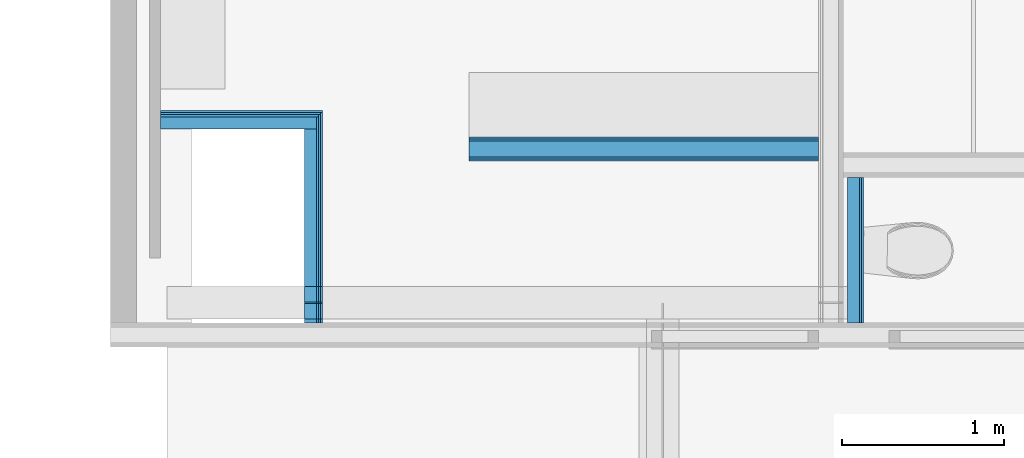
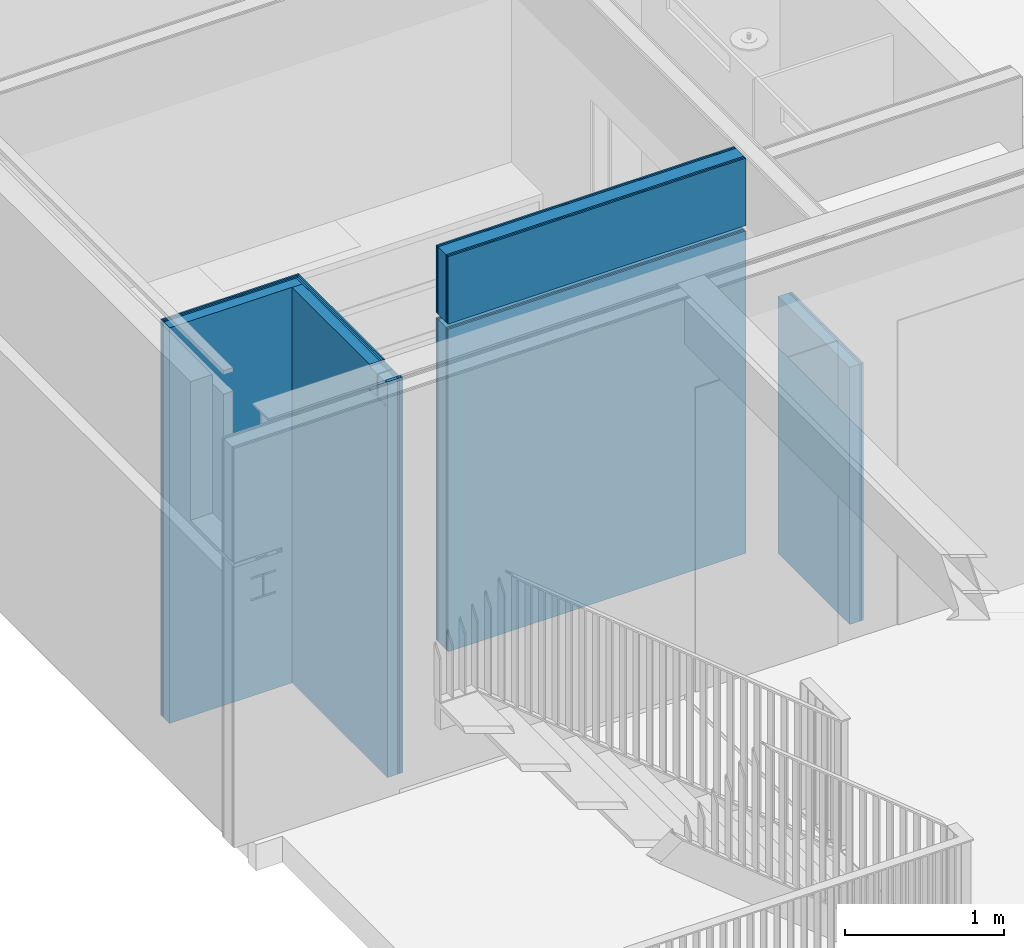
# One storey, part 11 of 35: 16 building element parts, 4 elements without a shape of their own.
"""IFC2X3 building model written with IfcOpenShell, lengths in millimetres."""

from ifc_helpers import new_model, entity, si_unit, converted_unit, derived_unit, money_unit, direction, frame, origin_with_axes, place, context, subcontext, project, spatial, faceted_brep, material, type_object, element, aggregate, save


model = new_model("IFC2X3")

# Units and contexts
model_context = context("Model", 3, precision=0.01, world=origin_with_axes(), true_north=direction((0.0, 1.0)))
body_context = subcontext(model_context, "Body", "Model", "MODEL_VIEW")
ifc_project = project(units=[si_unit("LENGTHUNIT", "METRE", prefix="MILLI"), si_unit("AREAUNIT", "SQUARE_METRE"), si_unit("VOLUMEUNIT", "CUBIC_METRE"), converted_unit("PLANEANGLEUNIT", "DEGREE", entity("IfcPlaneAngleMeasure", 0.0174532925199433), si_unit("PLANEANGLEUNIT", "RADIAN"), dimensions=[0, 0, 0, 0, 0, 0, 0]), money_unit("EUR"), converted_unit("TIMEUNIT", "Year", entity("IfcTimeMeasure", 31557600.0), si_unit("TIMEUNIT", "SECOND"), dimensions=[0, 0, 1, 0, 0, 0, 0]), si_unit("MASSUNIT", "GRAM", prefix="KILO"), si_unit("THERMODYNAMICTEMPERATUREUNIT", "DEGREE_CELSIUS"), si_unit("LUMINOUSINTENSITYUNIT", "LUMEN"), si_unit("ENERGYUNIT", "JOULE", prefix="MEGA"), derived_unit("THERMALCONDUCTANCEUNIT", [(si_unit("POWERUNIT", "WATT"), 1), (si_unit("LENGTHUNIT", "METRE"), -1), (si_unit("THERMODYNAMICTEMPERATUREUNIT", "KELVIN"), -1)]), derived_unit("SPECIFICHEATCAPACITYUNIT", [(si_unit("ENERGYUNIT", "JOULE"), 1), (si_unit("MASSUNIT", "GRAM", prefix="KILO"), -1), (si_unit("THERMODYNAMICTEMPERATUREUNIT", "KELVIN"), -1)]), derived_unit("MASSDENSITYUNIT", [(si_unit("MASSUNIT", "GRAM", prefix="KILO"), 1), (si_unit("VOLUMEUNIT", "CUBIC_METRE"), -1)])], contexts=[model_context])

# Site, building, storey
site_placement = place(None, origin_with_axes())
site = spatial("IfcSite", under=ifc_project, at=site_placement, Name="<site naam>", CompositionType="ELEMENT")
building_placement = place(site_placement, origin_with_axes())
building = spatial("IfcBuilding", under=site, at=building_placement, Name="<Naam gebouw>", CompositionType="ELEMENT")
storey_placement = place(building_placement, frame((0.0, 0.0, 6345.0), z_axis=(0.0, 0.0, 1.0), x_axis=(1.0, 0.0, 0.0)))
storey = spatial("IfcBuildingStorey", under=building, at=storey_placement, Name="02 2e tussenverdieping", CompositionType="ELEMENT", Elevation=6345.0)

# Wall, building element parts
wall_type_1 = type_object("IfcWallType", Name="MS-01 GF 150 ECO DGS/2.100.2.A 150", PredefinedType="NOTDEFINED")
wall_1_placement = place(storey_placement, frame((54042.53570277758, 12875.00002235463, 0.0), z_axis=(0.0, 0.0, 1.0), x_axis=(1.0, 0.0, 0.0)))
wall_1 = element("IfcWall", 1, at=wall_1_placement, inside=storey, type_object=wall_type_1, Name="22_Binnenwand_MS-01")
ifc_material_1 = material(Name="gipsplaat")
building_element_part_1_placement = place(wall_1_placement, origin_with_axes())
building_element_part_1 = element("IfcBuildingElementPart", 2, at=building_element_part_1_placement, material=ifc_material_1, Name="gipsplaat", context=body_context, shape_type="Brep", body=[
    faceted_brep([(2162.500004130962, 137.4999999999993, 3.000000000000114), (2162.500004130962, 150.0000000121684, 3.000000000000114), (2162.499968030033, 150.0000100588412, 2480.000000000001), (2162.500000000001, 137.5000000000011, 2480.000000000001), (0.0, 150.0000000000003, 3.000000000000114), (0.0, 137.4999999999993, 3.000000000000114), (0.0, 150.0000000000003, 2480.000000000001), (0.0, 137.5000000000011, 2480.000000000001)], [[[0, 1, 2, 3]], [[4, 1, 0, 5]], [[1, 4, 6, 2]], [[3, 2, 6, 7]], [[5, 0, 3, 7]], [[4, 5, 7, 6]]]),
    faceted_brep([(2162.500000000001, 137.5000000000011, 2520.0), (2162.499968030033, 150.0000100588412, 2520.0), (2162.500000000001, 150.0000000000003, 3038.000000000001), (2162.500000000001, 137.5000000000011, 3038.000000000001), (0.0, 150.0000000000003, 2520.0), (0.0, 137.5000000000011, 2520.0), (0.0, 150.0000000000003, 3038.000000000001), (0.0, 137.5000000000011, 3038.000000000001)], [[[0, 1, 2, 3]], [[4, 1, 0, 5]], [[1, 4, 6, 2]], [[3, 2, 6, 7]], [[5, 0, 3, 7]], [[4, 5, 7, 6]]]),
])
ifc_material_2 = material(Name="isolatie_steenwol LSW")
building_element_part_2_placement = place(wall_1_placement, origin_with_axes())
building_element_part_2 = element("IfcBuildingElementPart", 3, at=building_element_part_2_placement, material=ifc_material_2, Name="isolatie_steenwol LSW", context=body_context, shape_type="Brep", body=[
    faceted_brep([(2162.500004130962, 25.00000000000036, 3.000000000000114), (2162.500004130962, 125.0, 3.000000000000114), (2162.500000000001, 125.0, 2480.000000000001), (2162.499968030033, 50.95634978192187, 2480.000000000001), (2162.499968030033, 25.00000000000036, 2480.000000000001), (0.0, 125.0, 3.000000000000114), (0.0, 25.00000000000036, 3.000000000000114), (0.0, 125.0, 2480.000000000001), (0.0, 25.00000000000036, 2480.000000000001)], [[[0, 1, 2, 3, 4]], [[5, 1, 0, 6]], [[1, 5, 7, 2]], [[3, 2, 7, 8, 4]], [[6, 0, 4, 8]], [[5, 6, 8, 7]]]),
    faceted_brep([(2162.499968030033, 25.00000000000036, 2520.0), (2162.499968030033, 50.95634978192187, 2520.0), (2162.500000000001, 125.0, 2520.0), (2162.500000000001, 125.0, 3038.000000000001), (2162.500000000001, 25.00000000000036, 3038.000000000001), (0.0, 125.0, 2520.0), (0.0, 25.00000000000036, 2520.0), (0.0, 125.0, 3038.000000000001), (0.0, 25.00000000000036, 3038.000000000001)], [[[0, 1, 2, 3, 4]], [[5, 2, 1, 0, 6]], [[2, 5, 7, 3]], [[4, 3, 7, 8]], [[6, 0, 4, 8]], [[5, 6, 8, 7]]]),
])
building_element_part_3_placement = place(wall_1_placement, origin_with_axes())
building_element_part_3 = element("IfcBuildingElementPart", 4, at=building_element_part_3_placement, material=ifc_material_1, Name="gipsplaat", context=body_context, shape_type="Brep", body=[
    faceted_brep([(2162.500004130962, 12.49999999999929, 3.000000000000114), (2162.500004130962, 25.00000000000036, 3.000000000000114), (2162.499968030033, 25.00000000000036, 2480.000000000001), (2162.499968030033, 12.50000000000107, 2480.000000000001), (0.0, 25.00000000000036, 3.000000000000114), (0.0, 12.49999999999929, 3.000000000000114), (0.0, 25.00000000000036, 2480.000000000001), (0.0, 12.50000000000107, 2480.000000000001)], [[[0, 1, 2, 3]], [[4, 1, 0, 5]], [[1, 4, 6, 2]], [[3, 2, 6, 7]], [[5, 0, 3, 7]], [[4, 5, 7, 6]]]),
    faceted_brep([(2162.499968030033, 12.50000000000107, 2520.0), (2162.499968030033, 25.00000000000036, 2520.0), (2162.500000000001, 25.00000000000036, 3038.000000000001), (2162.500000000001, 12.50000000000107, 3038.000000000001), (0.0, 25.00000000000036, 2520.0), (0.0, 12.50000000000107, 2520.0), (0.0, 25.00000000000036, 3038.000000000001), (0.0, 12.50000000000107, 3038.000000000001)], [[[0, 1, 2, 3]], [[4, 1, 0, 5]], [[1, 4, 6, 2]], [[3, 2, 6, 7]], [[5, 0, 3, 7]], [[4, 5, 7, 6]]]),
])
building_element_part_4_placement = place(wall_1_placement, origin_with_axes())
building_element_part_4 = element("IfcBuildingElementPart", 5, at=building_element_part_4_placement, material=ifc_material_1, Name="gipsplaat", context=body_context, shape_type="Brep", body=[
    faceted_brep([(2162.500004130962, 0.0, 3.000000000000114), (2162.500004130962, 12.49999999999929, 3.000000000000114), (2162.499968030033, 12.50000000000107, 2480.000000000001), (2162.499968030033, 0.0, 2480.000000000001), (0.0, 12.49999999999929, 3.000000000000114), (0.0, 0.0, 3.000000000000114), (0.0, 12.50000000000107, 2480.000000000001), (0.0, 0.0, 2480.000000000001)], [[[0, 1, 2, 3]], [[4, 1, 0, 5]], [[1, 4, 6, 2]], [[3, 2, 6, 7]], [[5, 0, 3, 7]], [[4, 5, 7, 6]]]),
    faceted_brep([(2162.499968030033, 0.0, 2520.0), (2162.499968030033, 12.50000000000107, 2520.0), (2162.500000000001, 12.50000000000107, 3038.000000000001), (2162.500000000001, 0.0, 3038.000000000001), (0.0, 12.50000000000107, 2520.0), (0.0, 0.0, 2520.0), (0.0, 12.50000000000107, 3038.000000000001), (0.0, 0.0, 3038.000000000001)], [[[0, 1, 2, 3]], [[4, 1, 0, 5]], [[1, 4, 6, 2]], [[3, 2, 6, 7]], [[5, 0, 3, 7]], [[4, 5, 7, 6]]]),
])
building_element_part_5_placement = place(wall_1_placement, origin_with_axes())
building_element_part_5 = element("IfcBuildingElementPart", 6, at=building_element_part_5_placement, material=ifc_material_1, Name="gipsplaat", context=body_context, shape_type="Brep", body=[
    faceted_brep([(2162.500004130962, 125.0, 3.000000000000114), (2162.500004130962, 137.4999999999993, 3.000000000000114), (2162.500000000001, 137.5000000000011, 2480.000000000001), (2162.500000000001, 125.0, 2480.000000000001), (0.0, 137.4999999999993, 3.000000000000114), (0.0, 125.0, 3.000000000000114), (0.0, 137.5000000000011, 2480.000000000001), (0.0, 125.0, 2480.000000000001)], [[[0, 1, 2, 3]], [[4, 1, 0, 5]], [[1, 4, 6, 2]], [[3, 2, 6, 7]], [[5, 0, 3, 7]], [[4, 5, 7, 6]]]),
    faceted_brep([(2162.500000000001, 125.0, 2520.0), (2162.500000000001, 137.5000000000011, 2520.0), (2162.500000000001, 137.5000000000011, 3038.000000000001), (2162.500000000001, 125.0, 3038.000000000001), (0.0, 137.5000000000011, 2520.0), (0.0, 125.0, 2520.0), (0.0, 137.5000000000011, 3038.000000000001), (0.0, 125.0, 3038.000000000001)], [[[0, 1, 2, 3]], [[4, 1, 0, 5]], [[1, 4, 6, 2]], [[3, 2, 6, 7]], [[5, 0, 3, 7]], [[4, 5, 7, 6]]]),
])
aggregate(wall_1, [building_element_part_1, building_element_part_2, building_element_part_3, building_element_part_4, building_element_part_5])

wall_type_2 = type_object("IfcWallType", Name="MS-04 GF 138 V/100.3.A 113", PredefinedType="NOTDEFINED")
wall_2_placement = place(storey_placement, frame((52135.00000000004, 13075.00000000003, 0.0), z_axis=(0.0, 0.0, 1.0), x_axis=(1.0, 0.0, 0.0)))
wall_2 = element("IfcWall", 7, at=wall_2_placement, inside=storey, type_object=wall_type_2, Name="22_Binnenwand_MS-04")
building_element_part_6_placement = place(wall_2_placement, origin_with_axes())
building_element_part_6 = element("IfcBuildingElementPart", 8, at=building_element_part_6_placement, material=ifc_material_1, Name="gipsplaat", context=body_context, shape_type="Brep", body=[
    faceted_brep([(4.395323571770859e-05, 112.5000000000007, 3038.000000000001), (1002.499980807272, 112.5000000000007, 3038.000000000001), (1002.499980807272, 112.5000000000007, 0.0), (0.0, 112.5000000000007, 0.0), (1002.499980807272, 99.99999999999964, 3038.000000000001), (4.395323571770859e-05, 99.99999999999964, 3038.000000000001), (1002.499980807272, 99.99999999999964, 0.0), (0.0, 99.99999999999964, 0.0)], [[[0, 1, 2, 3]], [[4, 1, 0, 5]], [[1, 4, 6, 2]], [[6, 7, 3, 2]], [[5, 0, 3, 7]], [[4, 5, 7, 6]]]),
])
building_element_part_7_placement = place(wall_2_placement, origin_with_axes())
building_element_part_7 = element("IfcBuildingElementPart", 9, at=building_element_part_7_placement, material=ifc_material_1, Name="gipsplaat", context=body_context, shape_type="Brep", body=[
    faceted_brep([(4.395323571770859e-05, 99.99999999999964, 3038.000000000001), (989.9999999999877, 99.99999999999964, 3038.000000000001), (989.9999999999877, 99.99999999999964, 0.0), (0.0, 99.99999999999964, 0.0), (989.9999999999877, 87.50000000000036, 3038.000000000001), (4.395323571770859e-05, 87.50000000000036, 3038.000000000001), (989.9999999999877, 87.50000000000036, 0.0), (0.0, 87.50000000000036, 0.0)], [[[0, 1, 2, 3]], [[4, 1, 0, 5]], [[1, 4, 6, 2]], [[7, 3, 2, 6]], [[5, 0, 3, 7]], [[4, 5, 7, 6]]]),
])
building_element_part_8_placement = place(wall_2_placement, origin_with_axes())
building_element_part_8 = element("IfcBuildingElementPart", 10, at=building_element_part_8_placement, material=ifc_material_2, Name="isolatie_steenwol LSW", context=body_context, shape_type="Brep", body=[
    faceted_brep([(4.395323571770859e-05, 75.00000000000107, 3038.000000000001), (964.9999999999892, 74.99999999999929, 3038.000000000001), (964.9999999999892, 74.99999999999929, 0.0), (0.0, 74.99999999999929, 0.0), (964.9999999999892, 0.0, 3038.000000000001), (4.395323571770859e-05, -5.327864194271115e-05, 3038.000000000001), (964.9999999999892, 0.0, 0.0), (0.0, 0.0, 0.0)], [[[0, 1, 2, 3]], [[4, 1, 0, 5]], [[1, 4, 6, 2]], [[7, 3, 2, 6]], [[5, 0, 3, 7]], [[4, 5, 7, 6]]]),
])
building_element_part_9_placement = place(wall_2_placement, origin_with_axes())
building_element_part_9 = element("IfcBuildingElementPart", 11, at=building_element_part_9_placement, material=ifc_material_1, Name="gipsplaat", context=body_context, shape_type="Brep", body=[
    faceted_brep([(4.395323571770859e-05, 87.50000000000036, 3038.000000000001), (977.499999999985, 87.50000000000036, 3038.000000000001), (977.499999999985, 87.50000000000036, 0.0), (0.0, 87.50000000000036, 0.0), (977.499999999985, 74.99999999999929, 3038.000000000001), (4.395323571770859e-05, 75.00000000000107, 3038.000000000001), (977.499999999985, 74.99999999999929, 0.0), (0.0, 74.99999999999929, 0.0)], [[[0, 1, 2, 3]], [[4, 1, 0, 5]], [[1, 4, 6, 2]], [[7, 3, 2, 6]], [[5, 0, 3, 7]], [[4, 5, 7, 6]]]),
])
aggregate(wall_2, [building_element_part_6, building_element_part_7, building_element_part_8, building_element_part_9])

wall_3_placement = place(storey_placement, frame((53025.00000000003, 13075.00000000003, 0.0), z_axis=(0.0, 0.0, 1.0), x_axis=(0.0, -1.0, 0.0)))
wall_3 = element("IfcWall", 12, at=wall_3_placement, inside=storey, type_object=wall_type_2, Name="22_Binnenwand_MS-04")
building_element_part_10_placement = place(wall_3_placement, origin_with_axes())
building_element_part_10 = element("IfcBuildingElementPart", 13, at=building_element_part_10_placement, material=ifc_material_1, Name="gipsplaat", context=body_context, shape_type="Brep", body=[
    faceted_brep([(1175.000003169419, 87.49999999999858, 3038.000000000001), (1175.000003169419, 100.0000000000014, 3038.000000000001), (1175.000003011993, 100.0000000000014, 3022.999992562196), (1175.000003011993, 87.49999999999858, 3022.999992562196), (1199.999999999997, 100.0000000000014, 3038.000000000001), (1199.999999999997, 87.49999999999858, 3038.000000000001), (-87.50000000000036, 100.0000000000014, 3038.000000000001), (974.9999968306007, 100.0000000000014, 3038.000000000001), (974.9999969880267, 100.0000000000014, 3022.999992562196), (1070.50000000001, 100.0000000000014, 3022.999992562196), (1070.50000000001, 100.0000000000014, 2852.999998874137), (974.9999969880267, 100.0000000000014, 2852.999998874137), (974.9999968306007, 100.0000000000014, 2837.999991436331), (1175.000003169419, 100.0000000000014, 2837.999991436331), (1175.000003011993, 100.0000000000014, 2852.999998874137), (1079.50000000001, 100.0000000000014, 2852.999998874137), (1079.50000000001, 100.0000000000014, 3022.999992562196), (1199.999999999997, 100.0000000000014, 0.0), (-87.50000000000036, 100.0000000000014, 0.0), (1079.50000000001, 87.49999999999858, 3022.999992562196), (974.9999968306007, 87.49999999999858, 3038.000000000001), (-87.50000000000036, 87.49999999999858, 3038.000000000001), (-87.50000000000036, 87.49999999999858, 0.0), (1199.999999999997, 87.49999999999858, 0.0), (1079.50000000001, 87.49999999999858, 2852.999998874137), (1175.000003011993, 87.49999999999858, 2852.999998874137), (1175.000003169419, 87.49999999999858, 2837.999991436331), (974.9999968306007, 87.49999999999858, 2837.999991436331), (974.9999969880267, 87.49999999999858, 2852.999998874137), (1070.50000000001, 87.49999999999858, 2852.999998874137), (1070.50000000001, 87.49999999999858, 3022.999992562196), (974.9999969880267, 87.49999999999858, 3022.999992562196)], [[[0, 1, 2, 3]], [[4, 1, 0, 5]], [[6, 7, 8, 9, 10, 11, 12, 13, 14, 15, 16, 2, 1, 4, 17, 18]], [[3, 2, 16, 19]], [[20, 21, 22, 23, 5, 0, 3, 19, 24, 25, 26, 27, 28, 29, 30, 31]], [[4, 5, 23, 17]], [[7, 6, 21, 20]], [[7, 20, 31, 8]], [[30, 9, 8, 31]], [[29, 10, 9, 30]], [[28, 11, 10, 29]], [[27, 12, 11, 28]], [[26, 13, 12, 27]], [[25, 14, 13, 26]], [[24, 15, 14, 25]], [[19, 16, 15, 24]], [[18, 17, 23, 22]], [[21, 6, 18, 22]]]),
])
building_element_part_11_placement = place(wall_3_placement, origin_with_axes())
building_element_part_11 = element("IfcBuildingElementPart", 14, at=building_element_part_11_placement, material=ifc_material_1, Name="gipsplaat", context=body_context, shape_type="Brep", body=[
    faceted_brep([(1175.000003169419, 75.00000000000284, 3038.000000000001), (1175.000003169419, 87.49999999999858, 3038.000000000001), (1175.000003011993, 87.49999999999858, 3022.999992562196), (1175.000003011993, 75.00000000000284, 3022.999992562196), (1199.999999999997, 87.49999999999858, 3038.000000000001), (1199.999999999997, 75.00000000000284, 3038.000000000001), (-74.99999999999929, 87.49999999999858, 3038.000000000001), (974.9999968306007, 87.49999999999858, 3038.000000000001), (974.9999969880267, 87.49999999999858, 3022.999992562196), (1070.50000000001, 87.49999999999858, 3022.999992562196), (1070.50000000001, 87.49999999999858, 2852.999998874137), (974.9999969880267, 87.49999999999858, 2852.999998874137), (974.9999968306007, 87.49999999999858, 2837.999991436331), (1175.000003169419, 87.49999999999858, 2837.999991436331), (1175.000003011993, 87.49999999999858, 2852.999998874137), (1079.50000000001, 87.49999999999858, 2852.999998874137), (1079.50000000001, 87.49999999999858, 3022.999992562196), (1199.999999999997, 87.49999999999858, 0.0), (-74.99999999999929, 87.49999999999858, 0.0), (1079.50000000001, 75.00000000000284, 3022.999992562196), (974.9999968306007, 75.00000000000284, 3038.000000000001), (-74.99999999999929, 75.00000000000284, 3038.000000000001), (-74.99999999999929, 75.00000000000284, 0.0), (1199.999999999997, 75.00000000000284, 0.0), (1079.50000000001, 75.00000000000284, 2852.999998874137), (1175.000003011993, 75.00000000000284, 2852.999998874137), (1175.000003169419, 75.00000000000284, 2837.999991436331), (974.9999968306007, 75.00000000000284, 2837.999991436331), (974.9999969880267, 75.00000000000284, 2852.999998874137), (1070.50000000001, 75.00000000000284, 2852.999998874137), (1070.50000000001, 75.00000000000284, 3022.999992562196), (974.9999969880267, 75.00000000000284, 3022.999992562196)], [[[0, 1, 2, 3]], [[4, 1, 0, 5]], [[6, 7, 8, 9, 10, 11, 12, 13, 14, 15, 16, 2, 1, 4, 17, 18]], [[3, 2, 16, 19]], [[20, 21, 22, 23, 5, 0, 3, 19, 24, 25, 26, 27, 28, 29, 30, 31]], [[4, 5, 23, 17]], [[7, 6, 21, 20]], [[7, 20, 31, 8]], [[30, 9, 8, 31]], [[29, 10, 9, 30]], [[28, 11, 10, 29]], [[27, 12, 11, 28]], [[26, 13, 12, 27]], [[25, 14, 13, 26]], [[24, 15, 14, 25]], [[19, 16, 15, 24]], [[18, 17, 23, 22]], [[21, 6, 18, 22]]]),
])
building_element_part_12_placement = place(wall_3_placement, origin_with_axes())
building_element_part_12 = element("IfcBuildingElementPart", 15, at=building_element_part_12_placement, material=ifc_material_2, Name="isolatie_steenwol LSW", context=body_context, shape_type="Brep", body=[
    faceted_brep([(1175.000003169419, 8.322734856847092e-05, 3038.000000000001), (1175.000003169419, 75.00000000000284, 3038.000000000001), (1175.000003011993, 75.00000000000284, 3022.999992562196), (1175.000003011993, 8.322734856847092e-05, 3022.999992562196), (1199.999999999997, 75.00000000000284, 3038.000000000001), (1199.999999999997, 7.931138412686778e-05, 3038.000000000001), (0.0, 75.00000000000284, 3038.000000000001), (974.9999968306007, 75.00000000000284, 3038.000000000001), (974.9999969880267, 75.00000000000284, 3022.999992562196), (1070.50000000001, 75.00000000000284, 3022.999992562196), (1070.50000000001, 75.00000000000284, 2852.999998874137), (974.9999969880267, 75.00000000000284, 2852.999998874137), (974.9999968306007, 75.00000000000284, 2837.999991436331), (1175.000003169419, 75.00000000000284, 2837.999991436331), (1175.000003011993, 75.00000000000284, 2852.999998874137), (1079.50000000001, 75.00000000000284, 2852.999998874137), (1079.50000000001, 75.00000000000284, 3022.999992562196), (1199.999999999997, 75.00000000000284, 0.0), (0.0, 75.00000000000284, 0.0), (1079.50000000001, 8.322734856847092e-05, 3022.999992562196), (974.9999968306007, 8.322734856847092e-05, 3038.000000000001), (5.327864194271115e-05, 7.931138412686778e-05, 3038.000000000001), (0.0, 0.0, 0.0), (1199.999999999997, 0.0, 0.0), (1079.50000000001, 8.322734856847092e-05, 2852.999998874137), (1175.000003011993, 8.322734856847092e-05, 2852.999998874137), (1175.000003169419, 8.322734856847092e-05, 2837.999991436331), (974.9999968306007, 8.322734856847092e-05, 2837.999991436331), (974.9999969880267, 8.322734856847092e-05, 2852.999998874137), (1070.50000000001, 8.322734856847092e-05, 2852.999998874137), (1070.50000000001, 8.322734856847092e-05, 3022.999992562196), (974.9999969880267, 8.322734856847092e-05, 3022.999992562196)], [[[0, 1, 2, 3]], [[4, 1, 0, 5]], [[6, 7, 8, 9, 10, 11, 12, 13, 14, 15, 16, 2, 1, 4, 17, 18]], [[3, 2, 16, 19]], [[20, 21, 22, 23, 5, 0, 3, 19, 24, 25, 26, 27, 28, 29, 30, 31]], [[4, 5, 23, 17]], [[7, 6, 21, 20]], [[7, 20, 31, 8]], [[30, 9, 8, 31]], [[29, 10, 9, 30]], [[28, 11, 10, 29]], [[27, 12, 11, 28]], [[26, 13, 12, 27]], [[25, 14, 13, 26]], [[24, 15, 14, 25]], [[19, 16, 15, 24]], [[18, 17, 23, 22]], [[21, 6, 18, 22]]]),
])
building_element_part_13_placement = place(wall_3_placement, origin_with_axes())
building_element_part_13 = element("IfcBuildingElementPart", 16, at=building_element_part_13_placement, material=ifc_material_1, Name="gipsplaat", context=body_context, shape_type="Brep", body=[
    faceted_brep([(1175.000003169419, 100.0000000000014, 3038.000000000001), (1175.000003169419, 112.4999808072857, 3038.000000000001), (1175.000003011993, 112.4999808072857, 3022.999992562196), (1175.000003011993, 100.0000000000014, 3022.999992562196), (1199.999999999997, 112.4999999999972, 3038.000000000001), (1199.999999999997, 100.0000000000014, 3038.000000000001), (-99.99999999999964, 112.4999808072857, 3038.000000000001), (974.9999968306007, 112.4999808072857, 3038.000000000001), (974.9999969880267, 112.4999808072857, 3022.999992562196), (1070.50000000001, 112.4999808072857, 3022.999992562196), (1070.50000000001, 112.4999808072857, 2852.999998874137), (974.9999969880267, 112.4999808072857, 2852.999998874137), (974.9999968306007, 112.4999808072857, 2837.999991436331), (1175.000003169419, 112.4999808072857, 2837.999991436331), (1175.000003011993, 112.4999808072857, 2852.999998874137), (1079.50000000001, 112.4999808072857, 2852.999998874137), (1079.50000000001, 112.4999808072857, 3022.999992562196), (1199.999999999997, 112.4999999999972, 0.0), (-99.99999999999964, 112.4999808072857, 0.0), (1079.50000000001, 100.0000000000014, 3022.999992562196), (974.9999968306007, 100.0000000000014, 3038.000000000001), (-99.99999999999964, 100.0000000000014, 3038.000000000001), (-99.99999999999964, 100.0000000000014, 0.0), (1199.999999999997, 100.0000000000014, 0.0), (1079.50000000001, 100.0000000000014, 2852.999998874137), (1175.000003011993, 100.0000000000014, 2852.999998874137), (1175.000003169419, 100.0000000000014, 2837.999991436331), (974.9999968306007, 100.0000000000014, 2837.999991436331), (974.9999969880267, 100.0000000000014, 2852.999998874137), (1070.50000000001, 100.0000000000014, 2852.999998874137), (1070.50000000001, 100.0000000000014, 3022.999992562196), (974.9999969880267, 100.0000000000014, 3022.999992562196)], [[[0, 1, 2, 3]], [[4, 1, 0, 5]], [[6, 7, 8, 9, 10, 11, 12, 13, 14, 15, 16, 2, 1, 4, 17, 18]], [[3, 2, 16, 19]], [[20, 21, 22, 23, 5, 0, 3, 19, 24, 25, 26, 27, 28, 29, 30, 31]], [[4, 5, 23, 17]], [[7, 6, 21, 20]], [[7, 20, 31, 8]], [[30, 9, 8, 31]], [[29, 10, 9, 30]], [[28, 11, 10, 29]], [[27, 12, 11, 28]], [[26, 13, 12, 27]], [[25, 14, 13, 26]], [[24, 15, 14, 25]], [[19, 16, 15, 24]], [[18, 17, 23, 22]], [[21, 6, 18, 22]]]),
])
aggregate(wall_3, [building_element_part_10, building_element_part_11, building_element_part_12, building_element_part_13])

wall_type_3 = type_object("IfcWallType", Name="MS-03 GF 100 HTT DGS V/100.2 100", PredefinedType="NOTDEFINED")
wall_4_placement = place(storey_placement, frame((56482.40333589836, 11725.00000000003, 0.0), z_axis=(0.0, 0.0, 1.0), x_axis=(0.0, 1.0, 0.0)))
wall_4 = element("IfcWall", 17, at=wall_4_placement, inside=storey, type_object=wall_type_3, Name="22_Binnenwand_MS-03")
building_element_part_14_placement = place(wall_4_placement, origin_with_axes())
building_element_part_14 = element("IfcBuildingElementPart", 18, at=building_element_part_14_placement, material=ifc_material_2, Name="isolatie_steenwol LSW", context=body_context, shape_type="Brep", body=[
    faceted_brep([(1049.969549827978, 100.0000000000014, 0.0), (1049.969549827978, 24.99999999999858, 0.0), (150.0000000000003, 24.99999999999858, 0.0), (150.0000000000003, 100.0000000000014, 0.0), (1049.969549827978, 100.0000000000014, 1975.0), (1049.969549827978, 24.99999999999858, 1975.0), (150.0000000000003, 24.99999999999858, 1975.0), (150.0000000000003, 100.0000000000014, 1975.0)], [[[0, 1, 2, 3]], [[0, 4, 5, 1]], [[1, 5, 6, 2]], [[3, 2, 6, 7]], [[4, 0, 3, 7]], [[5, 4, 7, 6]]]),
])
building_element_part_15_placement = place(wall_4_placement, origin_with_axes())
building_element_part_15 = element("IfcBuildingElementPart", 19, at=building_element_part_15_placement, material=ifc_material_1, Name="gipsplaat", context=body_context, shape_type="Brep", body=[
    faceted_brep([(1049.969549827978, 24.99999999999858, 0.0), (1049.969549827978, 12.50000000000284, 0.0), (150.0000000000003, 12.50000000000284, 0.0), (150.0000000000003, 24.99999999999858, 0.0), (1049.969549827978, 24.99999999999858, 1975.0), (1049.969549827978, 12.50000000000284, 1975.0), (150.0000000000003, 12.50000000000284, 1975.0), (150.0000000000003, 24.99999999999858, 1975.0)], [[[0, 1, 2, 3]], [[0, 4, 5, 1]], [[1, 5, 6, 2]], [[3, 2, 6, 7]], [[4, 0, 3, 7]], [[5, 4, 7, 6]]]),
])
building_element_part_16_placement = place(wall_4_placement, origin_with_axes())
building_element_part_16 = element("IfcBuildingElementPart", 20, at=building_element_part_16_placement, material=ifc_material_1, Name="gipsplaat", context=body_context, shape_type="Brep", body=[
    faceted_brep([(1049.969549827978, 12.50000000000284, 0.0), (1049.969549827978, 0.0, 0.0), (150.0000000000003, 0.0, 0.0), (150.0000000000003, 12.50000000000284, 0.0), (1049.969549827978, 12.50000000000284, 1975.0), (1049.969549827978, 0.0, 1975.0), (150.0000000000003, 0.0, 1975.0), (150.0000000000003, 12.50000000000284, 1975.0)], [[[0, 1, 2, 3]], [[0, 4, 5, 1]], [[1, 5, 6, 2]], [[3, 2, 6, 7]], [[4, 0, 3, 7]], [[5, 4, 7, 6]]]),
])
aggregate(wall_4, [building_element_part_14, building_element_part_15, building_element_part_16])

save(model, "model.ifc")
